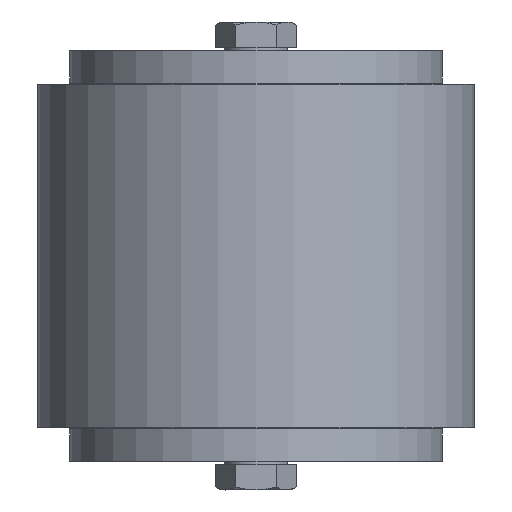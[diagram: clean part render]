
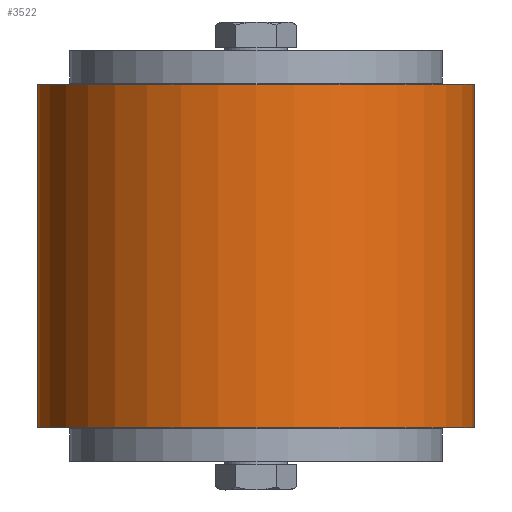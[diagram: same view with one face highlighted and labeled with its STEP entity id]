
A CAD part, left-side view. The second image highlights one B-rep face of the part: STEP entity #3522.
In plain terms, the highlighted cylindrical face has radius 40.5 mm (diameter 81 mm), a partial arc.
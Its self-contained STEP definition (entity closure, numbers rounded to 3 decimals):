
#3337=CARTESIAN_POINT('',(-339.361,17.579,69.358));
#3338=VERTEX_POINT('',#3337);
#3346=CARTESIAN_POINT('',(-339.361,17.579,5.858));
#3347=VERTEX_POINT('',#3346);
#3354=CARTESIAN_POINT('',(-339.361,17.579,5.858));
#3355=DIRECTION('',(0.0,0.0,1.0));
#3356=VECTOR('',#3355,63.5);
#3357=LINE('',#3354,#3356);
#3358=EDGE_CURVE('',#3347,#3338,#3357,.T.);
#3473=CARTESIAN_POINT('',(-339.361,-63.421,69.358));
#3474=VERTEX_POINT('',#3473);
#3481=CARTESIAN_POINT('',(-339.361,-63.421,5.858));
#3482=VERTEX_POINT('',#3481);
#3483=CARTESIAN_POINT('',(-339.361,-63.421,5.858));
#3484=DIRECTION('',(0.0,0.0,1.0));
#3485=VECTOR('',#3484,63.5);
#3486=LINE('',#3483,#3485);
#3487=EDGE_CURVE('',#3482,#3474,#3486,.T.);
#3499=CARTESIAN_POINT('',(-339.361,-22.921,5.858));
#3500=DIRECTION('',(0.0,0.,1.0));
#3501=DIRECTION('',(0.0,-1.0,0.0));
#3502=AXIS2_PLACEMENT_3D('',#3499,#3500,#3501);
#3503=CYLINDRICAL_SURFACE('',#3502,40.5);
#3504=CARTESIAN_POINT('',(-339.361,-22.921,69.358));
#3505=DIRECTION('',(0.0,0.0,-1.0));
#3506=DIRECTION('',(0.0,-1.0,0.0));
#3507=AXIS2_PLACEMENT_3D('',#3504,#3505,#3506);
#3508=CIRCLE('',#3507,40.5);
#3509=EDGE_CURVE('',#3474,#3338,#3508,.T.);
#3510=ORIENTED_EDGE('',*,*,#3509,.T.);
#3511=ORIENTED_EDGE('',*,*,#3358,.F.);
#3512=CARTESIAN_POINT('',(-339.361,-22.921,5.858));
#3513=DIRECTION('',(0.0,0.0,-1.0));
#3514=DIRECTION('',(0.0,-1.0,0.0));
#3515=AXIS2_PLACEMENT_3D('',#3512,#3513,#3514);
#3516=CIRCLE('',#3515,40.5);
#3517=EDGE_CURVE('',#3482,#3347,#3516,.T.);
#3518=ORIENTED_EDGE('',*,*,#3517,.F.);
#3519=ORIENTED_EDGE('',*,*,#3487,.T.);
#3520=EDGE_LOOP('',(#3510,#3511,#3518,#3519));
#3521=FACE_OUTER_BOUND('',#3520,.T.);
#3522=ADVANCED_FACE('',(#3521),#3503,.T.);
